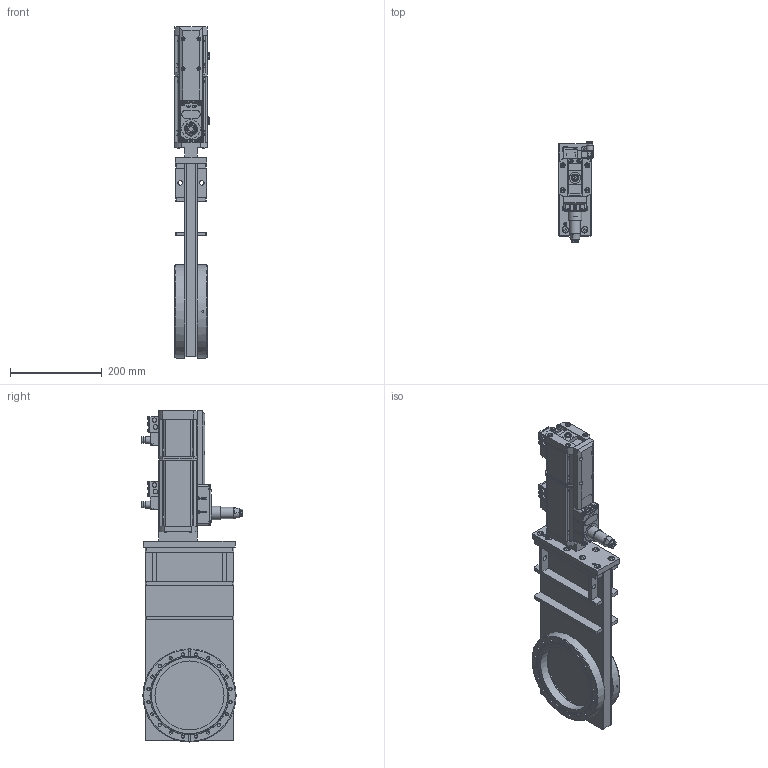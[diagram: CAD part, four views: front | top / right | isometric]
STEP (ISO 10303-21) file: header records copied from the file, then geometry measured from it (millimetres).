
FILE_DESCRIPTION(/* description */ (''),/* implementation_level */ '2;1');
FILE_NAME(/* name */ '1007554695_203.stp',/* time_stamp */ '2016-09-16T09:04:01+02:00',/* author */ (''),/* organization */ (''),/* preprocessor_version */ 'ST-DEVELOPER v15',/* originating_system */ 'SIEMENS PLM Software NX 9.0',/* authorisation */ '');
FILE_SCHEMA (('AP203_CONFIGURATION_CONTROLLED_3D_DESIGN_OF_MECHANICAL_PARTS_AND_ASSEMBLIES_MIM_LF { 1 0 10303 403 2 1 2}'));
Products named in the file (61): 467882; 437235; 804858_23984ID; 804850_23729ID; 804857_23752ID; 804857_23744ID; 804844_23730ID; 804853_23732ID; 804858_23978ID; 804844_23738ID; 804857_23747ID; 804858_23987ID; 804853_23751ID; 804845_23980ID; 804845_23982ID; 804857_23733ID; 804858_23986ID; N-7557-016_1.1; N-7557-018.1; N-7557-016_2.1; N-6024-524.1; N-5018-005.1; 496386; n-6024-548.1; n-8504-002; N-6005-437.1; N-6005-477.1; N-6013-447.1; N-6005-473.1; 72845-01.1; 72846-01.1; 73706-01.1; 79606-01.2; 72840-01.1; 73699-01.1; 94311-01.1; 70738-01.1; 73690-01.1; 73704-01.1; 73701-01.1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
Assembly tree (110 placements, depth 4):
  860460
    22940-r1.1_MODEL
      804898_MODEL
        804858_23986ID
        804857_23733ID
        804845_23982ID
        804845_23980ID
        804853_23751ID
        804858_23987ID
        804857_23747ID
        804844_23738ID
        804858_23978ID
        804853_23732ID
        804844_23730ID
        804857_23744ID
        804857_23752ID
        804850_23729ID
        804858_23984ID
      20846-01.1_23974ID
      20846-01.1
      n-6099-492.1  x2
    82469-r1.1_MODEL
      69129.1
      72872-01.1_23741ID
    94236-r1.3
      73004-01.1  x4
      94223-01.1
      85948-01.1
      N-6024-571.1  x4
    94307-r1.2
      73701-01.1  x4
      73704-01.1
      73690-01.1
      70738-01.1
      94311-01.1
      73699-01.1
      72840-01.1
      79606-01.2
      73706-01.1
      72846-01.1
      72845-01.1
      N-6005-473.1  x2
      N-6013-447.1  x2
      N-6005-477.1  x4
      N-6005-437.1  x4
    497537
      n-8504-002
      n-6024-548.1  x4
      496386
    489155_NX-ARRAGMNTKONFIG1
      N-5018-005.1  x2
      N-6024-524.1  x6
      N-7557-016_2.1
      N-7557-018.1
      N-7557-016_1.1
      N-7557-016_3.1_MODELNX-ARRAGMNTArrangement 1
        437235
        467882
    501144
    218198.1  x10
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Bounding box: 74.35 x 219.9 x 721.77 mm (x, y, z)
Volume: 3008795.4 mm3; surface area: 1015233.2 mm2
Topology: 142 solids, 142 shells, 3374 faces, 8287 edges, 5423 vertices
Faces by surface type: plane 2118, cylinder 756, cone 212, extrusion 137, torus 105, sphere 34, bspline 12
Full cylindrical faces by diameter (mm): 0.5 x1, 1 x1, 1.66 x7, 2 x1, 2.125 x1, 2.5 x8, 2.65 x1, 3 x22, 3.2 x4, 3.26 x4, 3.3 x12, 3.4 x8, 3.464 x2, 3.5 x6, 3.8 x4, 4 x22, 4.2 x5, 4.22 x2, 4.3 x6, 4.4 x8, 4.45 x4, 4.625 x2, 4.917 x4, 4.96 x6, 5 x13, 5.5 x2, 5.9 x1, 6 x52, 6.006 x1, 6.35 x2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
Entity records: 85238 total; most frequent: CARTESIAN_POINT 19423, ORIENTED_EDGE 10096, DIRECTION 9914, EDGE_CURVE 5048, VERTEX_POINT 3605, AXIS2_PLACEMENT_3D 3582, EDGE_LOOP 3084, VECTOR 2750
